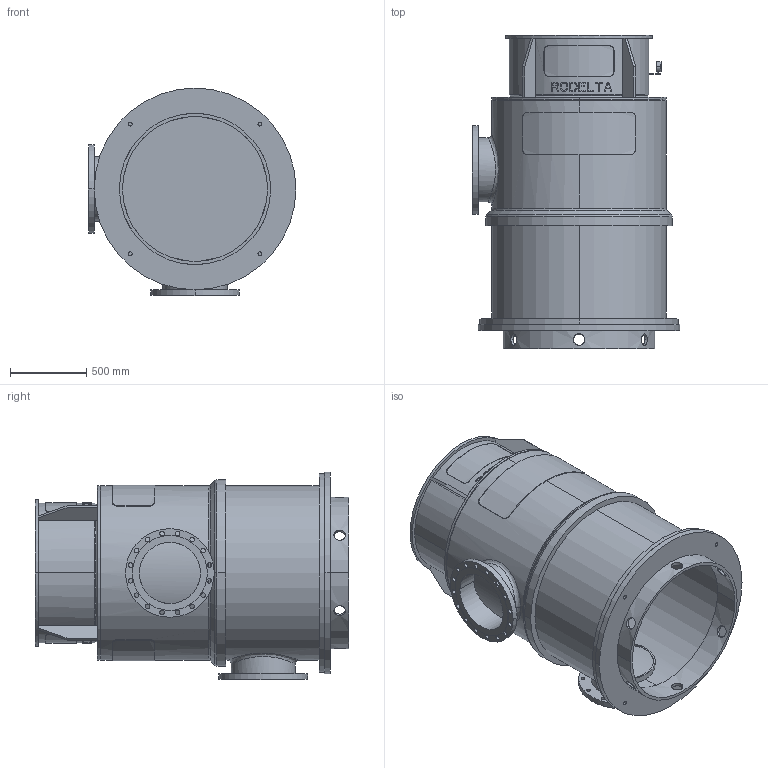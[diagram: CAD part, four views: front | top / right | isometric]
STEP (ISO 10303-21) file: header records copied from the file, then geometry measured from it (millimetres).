
FILE_DESCRIPTION((''),'2;1');
FILE_NAME('LS16_1TR_0GR','2023-08-23T',('Lyritlocal'),(''),'PRO/ENGINEER BY PARAMETRIC TECHNOLOGY CORPORATION, 2016360','PRO/ENGINEER BY PARAMETRIC TECHNOLOGY CORPORATION, 2016360','');
FILE_SCHEMA(('CONFIG_CONTROL_DESIGN'));
Length unit declared in the file: millimetre
Products named in the file (1): LS16_1TR_0GR
Bounding box: 1360 x 2052.5 x 1360 mm (x, y, z)
Volume: 171776114.5 mm3; surface area: 20406843.3 mm2
Topology: 3 solids, 3 shells, 564 faces, 1501 edges, 986 vertices
Faces by surface type: plane 346, cylinder 196, cone 14, bspline 4, torus 4
Entity records: 18937 total; most frequent: CARTESIAN_POINT 5097, ORIENTED_EDGE 3002, DIRECTION 2649, EDGE_CURVE 1501, AXIS2_PLACEMENT_3D 996, VERTEX_POINT 986, EDGE_LOOP 687, VECTOR 657
